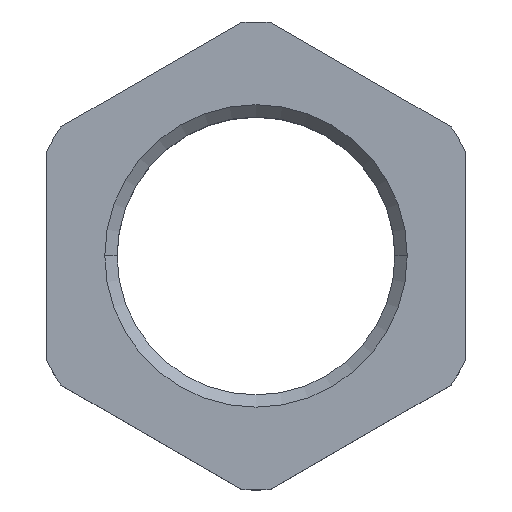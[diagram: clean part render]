
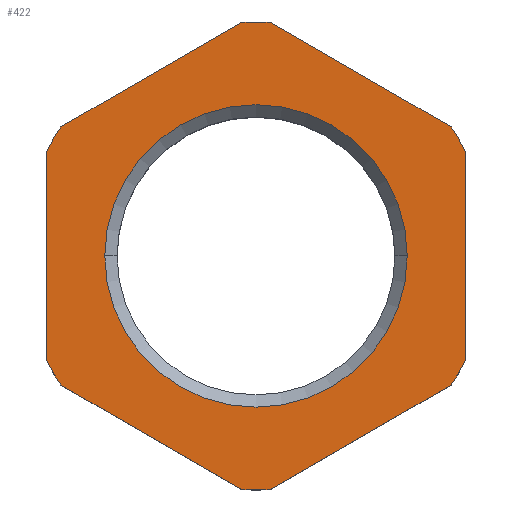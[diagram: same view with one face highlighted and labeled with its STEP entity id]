
A CAD part, top view. The second image highlights one B-rep face of the part: STEP entity #422.
In plain terms, the highlighted planar face has unit normal (0, 0, 1).
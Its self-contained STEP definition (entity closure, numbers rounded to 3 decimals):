
#3 = ORIENTED_EDGE ( 'NONE', *, *, #19, .T. ) ;
#4 = VERTEX_POINT ( 'NONE', #696 ) ;
#5 = ORIENTED_EDGE ( 'NONE', *, *, #74, .T. ) ;
#6 = ORIENTED_EDGE ( 'NONE', *, *, #445, .T. ) ;
#19 = EDGE_CURVE ( 'NONE', #412, #4, #749, .T. ) ;
#20 = ORIENTED_EDGE ( 'NONE', *, *, #21, .T. ) ;
#21 = EDGE_CURVE ( 'NONE', #4, #360, #745, .T. ) ;
#34 = VERTEX_POINT ( 'NONE', #722 ) ;
#41 = EDGE_CURVE ( 'NONE', #34, #367, #769, .T. ) ;
#43 = ORIENTED_EDGE ( 'NONE', *, *, #44, .T. ) ;
#44 = EDGE_CURVE ( 'NONE', #78, #34, #765, .T. ) ;
#48 = ORIENTED_EDGE ( 'NONE', *, *, #41, .T. ) ;
#74 = EDGE_CURVE ( 'NONE', #362, #78, #842, .T. ) ;
#78 = VERTEX_POINT ( 'NONE', #832 ) ;
#173 = VERTEX_POINT ( 'NONE', #1010 ) ;
#175 = VERTEX_POINT ( 'NONE', #1009 ) ;
#339 = EDGE_CURVE ( 'NONE', #364, #365, #1258, .T. ) ;
#341 = EDGE_CURVE ( 'NONE', #367, #364, #1254, .T. ) ;
#350 = VERTEX_POINT ( 'NONE', #1299 ) ;
#351 = EDGE_CURVE ( 'NONE', #350, #175, #1298, .T. ) ;
#360 = VERTEX_POINT ( 'NONE', #1286 ) ;
#362 = VERTEX_POINT ( 'NONE', #1278 ) ;
#364 = VERTEX_POINT ( 'NONE', #1277 ) ;
#365 = VERTEX_POINT ( 'NONE', #1276 ) ;
#367 = VERTEX_POINT ( 'NONE', #1271 ) ;
#405 = VERTEX_POINT ( 'NONE', #1367 ) ;
#406 = VERTEX_POINT ( 'NONE', #1366 ) ;
#407 = EDGE_CURVE ( 'NONE', #406, #173, #1365, .T. ) ;
#408 = EDGE_CURVE ( 'NONE', #365, #405, #1361, .T. ) ;
#409 = ORIENTED_EDGE ( 'NONE', *, *, #413, .T. ) ;
#410 = ORIENTED_EDGE ( 'NONE', *, *, #407, .T. ) ;
#411 = EDGE_CURVE ( 'NONE', #173, #412, #1357, .T. ) ;
#412 = VERTEX_POINT ( 'NONE', #1416 ) ;
#413 = EDGE_CURVE ( 'NONE', #405, #406, #1414, .T. ) ;
#414 = ORIENTED_EDGE ( 'NONE', *, *, #411, .T. ) ;
#415 = ORIENTED_EDGE ( 'NONE', *, *, #408, .T. ) ;
#416 = ORIENTED_EDGE ( 'NONE', *, *, #339, .T. ) ;
#417 = EDGE_CURVE ( 'NONE', #175, #350, #1409, .T. ) ;
#418 = ORIENTED_EDGE ( 'NONE', *, *, #341, .T. ) ;
#419 = EDGE_LOOP ( 'NONE', ( #418, #416, #415, #409, #410, #414, #3, #20, #6, #5, #43, #48 ) ) ;
#420 = ORIENTED_EDGE ( 'NONE', *, *, #351, .T. ) ;
#421 = ORIENTED_EDGE ( 'NONE', *, *, #417, .T. ) ;
#422 = ADVANCED_FACE ( 'NONE', ( #1405, #1404 ), #1403, .F. ) ;
#424 = EDGE_LOOP ( 'NONE', ( #420, #421 ) ) ;
#445 = EDGE_CURVE ( 'NONE', #360, #362, #1423, .T. ) ;
#696 = CARTESIAN_POINT ( 'NONE',  ( 7.924, -5.24, 0. ) ) ;
#722 = CARTESIAN_POINT ( 'NONE',  ( 0.576, 9.483, 0. ) ) ;
#741 = DIRECTION ( 'NONE',  ( 1., 0., 0. ) ) ;
#742 = DIRECTION ( 'NONE',  ( 0., 0., 1. ) ) ;
#743 = CARTESIAN_POINT ( 'NONE',  ( 0., 0., 0. ) ) ;
#744 = AXIS2_PLACEMENT_3D ( 'NONE', #743, #742, #741 ) ;
#745 = CIRCLE ( 'NONE', #744, 9.5 ) ;
#746 = DIRECTION ( 'NONE',  ( 0.866, 0.5, 0. ) ) ;
#747 = VECTOR ( 'NONE', #746, 1000. ) ;
#748 = CARTESIAN_POINT ( 'NONE',  ( 0., -9.815, 0. ) ) ;
#749 = LINE ( 'NONE', #748, #747 ) ;
#762 = DIRECTION ( 'NONE',  ( -0.866, 0.5, 0. ) ) ;
#763 = VECTOR ( 'NONE', #762, 1000. ) ;
#764 = CARTESIAN_POINT ( 'NONE',  ( 8.5, 4.907, 0. ) ) ;
#765 = LINE ( 'NONE', #764, #763 ) ;
#766 = DIRECTION ( 'NONE',  ( 1., 0., 0. ) ) ;
#767 = DIRECTION ( 'NONE',  ( 0., 0., 1. ) ) ;
#768 = AXIS2_PLACEMENT_3D ( 'NONE', #775, #767, #766 ) ;
#769 = CIRCLE ( 'NONE', #768, 9.5 ) ;
#775 = CARTESIAN_POINT ( 'NONE',  ( 0., 0., 0. ) ) ;
#832 = CARTESIAN_POINT ( 'NONE',  ( 7.924, 5.24, 0. ) ) ;
#838 = DIRECTION ( 'NONE',  ( 1., 0., 0. ) ) ;
#839 = DIRECTION ( 'NONE',  ( 0., 0., 1. ) ) ;
#840 = CARTESIAN_POINT ( 'NONE',  ( 0., 0., 0. ) ) ;
#841 = AXIS2_PLACEMENT_3D ( 'NONE', #840, #839, #838 ) ;
#842 = CIRCLE ( 'NONE', #841, 9.5 ) ;
#1009 = CARTESIAN_POINT ( 'NONE',  ( -6.14, 0., 0. ) ) ;
#1010 = CARTESIAN_POINT ( 'NONE',  ( -0.576, -9.483, 0. ) ) ;
#1251 = DIRECTION ( 'NONE',  ( -0.866, -0.5, 0. ) ) ;
#1252 = VECTOR ( 'NONE', #1251, 1000. ) ;
#1253 = CARTESIAN_POINT ( 'NONE',  ( 0., 9.815, 0. ) ) ;
#1254 = LINE ( 'NONE', #1253, #1252 ) ;
#1255 = DIRECTION ( 'NONE',  ( 1., 0., 0. ) ) ;
#1256 = DIRECTION ( 'NONE',  ( 0., 0., 1. ) ) ;
#1257 = AXIS2_PLACEMENT_3D ( 'NONE', #1263, #1256, #1255 ) ;
#1258 = CIRCLE ( 'NONE', #1257, 9.5 ) ;
#1263 = CARTESIAN_POINT ( 'NONE',  ( 0., 0., 0. ) ) ;
#1271 = CARTESIAN_POINT ( 'NONE',  ( -0.576, 9.483, 0. ) ) ;
#1276 = CARTESIAN_POINT ( 'NONE',  ( -8.5, 4.243, 0. ) ) ;
#1277 = CARTESIAN_POINT ( 'NONE',  ( -7.924, 5.24, 0. ) ) ;
#1278 = CARTESIAN_POINT ( 'NONE',  ( 8.5, 4.243, 0. ) ) ;
#1286 = CARTESIAN_POINT ( 'NONE',  ( 8.5, -4.243, 0. ) ) ;
#1294 = DIRECTION ( 'NONE',  ( -1., 0., 0. ) ) ;
#1295 = DIRECTION ( 'NONE',  ( 0., 0., -1. ) ) ;
#1296 = CARTESIAN_POINT ( 'NONE',  ( 0., 0., 0. ) ) ;
#1297 = AXIS2_PLACEMENT_3D ( 'NONE', #1296, #1295, #1294 ) ;
#1298 = CIRCLE ( 'NONE', #1297, 6.14 ) ;
#1299 = CARTESIAN_POINT ( 'NONE',  ( 6.14, 0., 0. ) ) ;
#1354 = DIRECTION ( 'NONE',  ( 0., 0., 1. ) ) ;
#1355 = CARTESIAN_POINT ( 'NONE',  ( 0., 0., 0. ) ) ;
#1356 = AXIS2_PLACEMENT_3D ( 'NONE', #1355, #1354, #1417 ) ;
#1357 = CIRCLE ( 'NONE', #1356, 9.5 ) ;
#1358 = DIRECTION ( 'NONE',  ( 0., -1., 0. ) ) ;
#1359 = VECTOR ( 'NONE', #1358, 1000. ) ;
#1360 = CARTESIAN_POINT ( 'NONE',  ( -8.5, 4.907, 0. ) ) ;
#1361 = LINE ( 'NONE', #1360, #1359 ) ;
#1362 = DIRECTION ( 'NONE',  ( 0.866, -0.5, 0. ) ) ;
#1363 = VECTOR ( 'NONE', #1362, 1000. ) ;
#1364 = CARTESIAN_POINT ( 'NONE',  ( -8.5, -4.907, 0. ) ) ;
#1365 = LINE ( 'NONE', #1364, #1363 ) ;
#1366 = CARTESIAN_POINT ( 'NONE',  ( -7.924, -5.24, 0. ) ) ;
#1367 = CARTESIAN_POINT ( 'NONE',  ( -8.5, -4.243, 0. ) ) ;
#1399 = DIRECTION ( 'NONE',  ( -1., 0., 0. ) ) ;
#1400 = DIRECTION ( 'NONE',  ( 0., 0., -1. ) ) ;
#1401 = CARTESIAN_POINT ( 'NONE',  ( 0., 0., 0. ) ) ;
#1402 = AXIS2_PLACEMENT_3D ( 'NONE', #1401, #1400, #1399 ) ;
#1403 = PLANE ( 'NONE',  #1402 ) ;
#1404 = FACE_OUTER_BOUND ( 'NONE', #419, .T. ) ;
#1405 = FACE_BOUND ( 'NONE', #424, .T. ) ;
#1406 = DIRECTION ( 'NONE',  ( -1., 0., 0. ) ) ;
#1407 = DIRECTION ( 'NONE',  ( 0., 0., -1. ) ) ;
#1408 = AXIS2_PLACEMENT_3D ( 'NONE', #1415, #1407, #1406 ) ;
#1409 = CIRCLE ( 'NONE', #1408, 6.14 ) ;
#1410 = DIRECTION ( 'NONE',  ( 1., 0., 0. ) ) ;
#1411 = DIRECTION ( 'NONE',  ( 0., 0., 1. ) ) ;
#1412 = CARTESIAN_POINT ( 'NONE',  ( 0., 0., 0. ) ) ;
#1413 = AXIS2_PLACEMENT_3D ( 'NONE', #1412, #1411, #1410 ) ;
#1414 = CIRCLE ( 'NONE', #1413, 9.5 ) ;
#1415 = CARTESIAN_POINT ( 'NONE',  ( 0., 0., 0. ) ) ;
#1416 = CARTESIAN_POINT ( 'NONE',  ( 0.576, -9.483, 0. ) ) ;
#1417 = DIRECTION ( 'NONE',  ( 1., 0., 0. ) ) ;
#1420 = DIRECTION ( 'NONE',  ( 0., 1., 0. ) ) ;
#1421 = VECTOR ( 'NONE', #1420, 1000. ) ;
#1422 = CARTESIAN_POINT ( 'NONE',  ( 8.5, -4.907, 0. ) ) ;
#1423 = LINE ( 'NONE', #1422, #1421 ) ;
